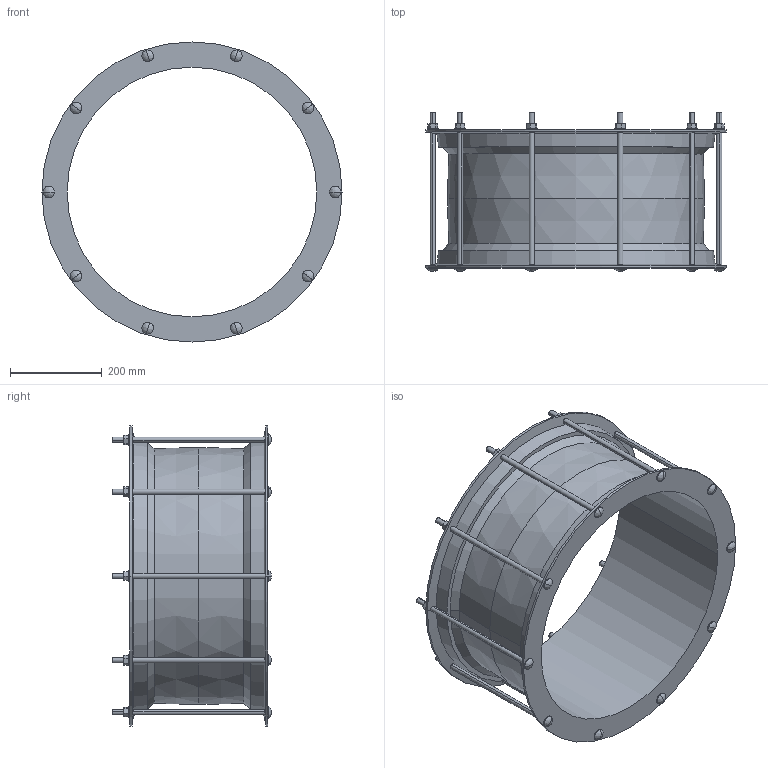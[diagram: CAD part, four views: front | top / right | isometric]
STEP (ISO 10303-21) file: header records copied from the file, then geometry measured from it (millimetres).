
FILE_DESCRIPTION((''),'2;1');
FILE_NAME('MAXIFIT_527_544','2018-12-18T',('mfairey'),('Glynwed Pipe Systems'),'CREO PARAMETRIC BY PTC INC, 2016130','CREO PARAMETRIC BY PTC INC, 2016130','');
FILE_SCHEMA(('CONFIG_CONTROL_DESIGN'));
Length unit declared in the file: millimetre
Products named in the file (1): MAXIFIT_527_544
Bounding box: 656 x 348 x 656 mm (x, y, z)
Volume: 7978823.6 mm3; surface area: 1534583.1 mm2
Topology: 1 solids, 1 shells, 216 faces, 524 edges, 328 vertices
Faces by surface type: plane 94, cylinder 86, bspline 20, cone 16
Entity records: 7706 total; most frequent: CARTESIAN_POINT 2682, DIRECTION 1018, ORIENTED_EDGE 1008, EDGE_CURVE 504, AXIS2_PLACEMENT_3D 366, VERTEX_POINT 328, VECTOR 286, LINE 286
